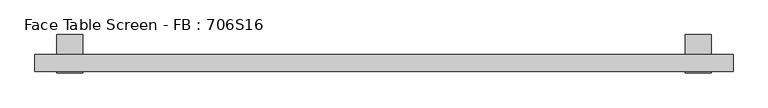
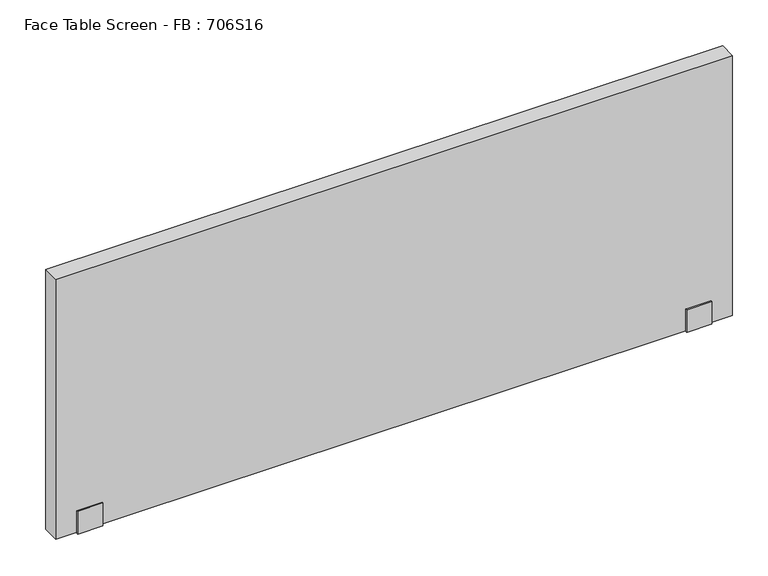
"""IFC4 building model written with IfcOpenShell, lengths in millimetres: furniture geometry, Face Table Screen - FB : 706S16."""

import ifcopenshell
import ifcopenshell.guid

model = None  # the IFC model being written
_history = None  # IfcOwnerHistory: only IFC2X3 demands one
_inside = {}  # id of a spatial element -> (the spatial element, [elements in it])
_under = {}  # id of a project, library or spatial element -> (it, [spatial elements below it])
_declared = {}  # id of a project -> (the project, [libraries it declares])
_typed = {}  # id of a type object -> (the type object, [elements of that type])
_made_of = {}  # id of a material, layer set ... -> (it, [elements and type objects made of it])


def new_model(schema):
    """Start an empty IFC model of exactly this schema.

    Asked for "IFC4X3", IfcOpenShell would pick the latest addendum, in which some entities
    have other attributes; the version numbers below select the first issue.
    IFC2X3 requires an IfcOwnerHistory on every rooted entity: one is made here for all.
    """
    global model, _history
    if schema == "IFC4X3":
        model = ifcopenshell.file(schema_version=(4, 3, 0, 0))
    else:
        model = ifcopenshell.file(schema=schema)
    _inside.clear()
    _under.clear()
    _declared.clear()
    _typed.clear()
    _made_of.clear()
    _history = None
    if model.schema == "IFC2X3":
        org = make("IfcOrganization", Name="unknown")
        user = make(
            "IfcPersonAndOrganization",
            ThePerson=make("IfcPerson", FamilyName="unknown"),
            TheOrganization=org,
        )
        app = make(
            "IfcApplication",
            ApplicationDeveloper=org,
            Version="unknown",
            ApplicationFullName="unknown",
            ApplicationIdentifier="unknown",
        )
        _history = make(
            "IfcOwnerHistory",
            OwningUser=user,
            OwningApplication=app,
            ChangeAction="ADDED",
            CreationDate=0,
        )
    return model


def make(cls, **values):
    """One entity of the class cls with the attributes given. An attribute that is None is left unset."""
    return model.create_entity(
        cls, **{name: value for name, value in values.items() if value is not None}
    )


def rooted(cls, **values):
    """An entity with a GlobalId (a new one), such as an element, a storey or a relation."""
    return make(cls, GlobalId=ifcopenshell.guid.new(), OwnerHistory=_history, **values)


def si_unit(unit_type, name, prefix=None):
    """IfcSIUnit, for example si_unit("LENGTHUNIT", "METRE", prefix="MILLI")."""
    return make("IfcSIUnit", UnitType=unit_type, Prefix=prefix, Name=name)


def assignment(units):
    """IfcUnitAssignment: the units of a project."""
    return None if units is None else make("IfcUnitAssignment", Units=units)


def point(xyz):
    """IfcCartesianPoint."""
    return None if xyz is None else make("IfcCartesianPoint", Coordinates=xyz)


def direction(xyz):
    """IfcDirection."""
    return None if xyz is None else make("IfcDirection", DirectionRatios=xyz)


def frame(location, z_axis=None, x_axis=None):
    """IfcAxis2Placement3D, a coordinate frame: its origin and axes. An axis left out is left unset."""
    return make(
        "IfcAxis2Placement3D",
        Location=point(location),
        Axis=direction(z_axis),
        RefDirection=direction(x_axis),
    )


def origin():
    """The frame at (0, 0, 0) with its axes left unset."""
    return frame((0.0, 0.0, 0.0))


def place(relative_to, where):
    """IfcLocalPlacement: puts the frame where relative to a parent placement (None: the world)."""
    return make(
        "IfcLocalPlacement", PlacementRelTo=relative_to, RelativePlacement=where
    )


def context(
    kind, dimensions, precision=None, world=None, true_north=None, identifier=None
):
    """IfcGeometricRepresentationContext, for example the 3D "Model" context."""
    return make(
        "IfcGeometricRepresentationContext",
        ContextIdentifier=identifier,
        ContextType=kind,
        CoordinateSpaceDimension=dimensions,
        Precision=precision,
        WorldCoordinateSystem=world,
        TrueNorth=true_north,
    )


def project(units=None, contexts=None):
    """IfcProject with its units and contexts."""
    return rooted(
        "IfcProject",
        Name="project",
        RepresentationContexts=contexts,
        UnitsInContext=assignment(units),
    )


def spatial(cls, under=None, at=None, **own):
    """A site, building, storey or space (cls), placed at a placement, below another one or the project."""
    s = rooted(cls, ObjectPlacement=at, **own)
    if under is not None:
        _under.setdefault(under.id(), (under, []))[1].append(s)
    return s


def polyline(points):
    """IfcPolyline through the points."""
    return make("IfcPolyline", Points=[point(p) for p in points])


def outline(outer, holes=None, kind="AREA"):
    """IfcArbitraryClosedProfileDef: a profile drawn as a closed curve; with holes, ...WithVoids."""
    if holes is None:
        return make("IfcArbitraryClosedProfileDef", ProfileType=kind, OuterCurve=outer)
    return make(
        "IfcArbitraryProfileDefWithVoids",
        ProfileType=kind,
        OuterCurve=outer,
        InnerCurves=holes,
    )


def extrude(swept, where, along, depth):
    """IfcExtrudedAreaSolid: the profile swept, set in the frame where, extruded along a direction by depth."""
    return make(
        "IfcExtrudedAreaSolid",
        SweptArea=swept,
        Position=where,
        ExtrudedDirection=direction(along),
        Depth=depth,
    )


def shape(context_of_items, identifier, shape_type, items):
    """IfcShapeRepresentation: the items that make up one representation, for example the "Body"."""
    return make(
        "IfcShapeRepresentation",
        ContextOfItems=context_of_items,
        RepresentationIdentifier=identifier,
        RepresentationType=shape_type,
        Items=items,
    )


def source(mapping_origin, context_of_items, identifier, shape_type, items):
    """IfcRepresentationMap: a shape defined once, which mapped items show again and again."""
    return make(
        "IfcRepresentationMap",
        MappingOrigin=mapping_origin,
        MappedRepresentation=shape(context_of_items, identifier, shape_type, items),
    )


def transform(
    local_origin,
    x_axis=None,
    y_axis=None,
    z_axis=None,
    scale=None,
    scale2=None,
    scale3=None,
    uniform=True,
):
    """IfcCartesianTransformationOperator3D, or its non-uniform kind. x_axis, y_axis, z_axis: its Axis1, 2, 3."""
    if uniform:
        return make(
            "IfcCartesianTransformationOperator3D",
            Axis1=direction(x_axis),
            Axis2=direction(y_axis),
            LocalOrigin=point(local_origin),
            Scale=scale,
            Axis3=direction(z_axis),
        )
    return make(
        "IfcCartesianTransformationOperator3DnonUniform",
        Axis1=direction(x_axis),
        Axis2=direction(y_axis),
        LocalOrigin=point(local_origin),
        Scale=scale,
        Axis3=direction(z_axis),
        Scale2=scale2,
        Scale3=scale3,
    )


def mapped(mapping_source, mapping_target):
    """IfcMappedItem: shows the shape of a source again, moved by a transform."""
    return make(
        "IfcMappedItem", MappingSource=mapping_source, MappingTarget=mapping_target
    )


def made_of(thing, what):
    """Note that an element or type object is made of a material, layer set ...; save() writes the relation."""
    if what is not None:
        _made_of.setdefault(what.id(), (what, []))[1].append(thing)
    return thing


def element(
    cls,
    number,
    at=None,
    inside=None,
    cuts=None,
    type_object=None,
    material=None,
    context=None,
    identifier="Body",
    shape_type=None,
    held_by="IfcProductDefinitionShape",
    body=None,
    shapes=None,
    **own,
):
    """One element of the class cls, such as IfcWall. Its Tag is "e" and its number.

    at: its placement. inside: the storey or other place that contains it. cuts: it is an
    opening in that element (IfcRelVoidsElement). A single representation is given by context,
    identifier, shape_type and body (its items); several are given by shapes. held_by: the class
    of the entity that holds the representations. save() writes the other relations.
    """
    e = rooted(cls, Tag="e%d" % number, ObjectPlacement=at, **own)
    if body is not None:
        shapes = [shape(context, identifier, shape_type, body)]
    if shapes is not None:
        e.Representation = make(held_by, Representations=shapes)
    if inside is not None:
        _inside.setdefault(inside.id(), (inside, []))[1].append(e)
    if cuts is not None:
        rooted(
            "IfcRelVoidsElement", RelatingBuildingElement=cuts, RelatedOpeningElement=e
        )
    if type_object is not None:
        _typed.setdefault(type_object.id(), (type_object, []))[1].append(e)
    return made_of(e, material)


def aggregate(whole, parts):
    """IfcRelAggregates: a whole, such as a stair, and the parts it consists of."""
    return rooted("IfcRelAggregates", RelatingObject=whole, RelatedObjects=parts)


def save(model, path):
    """Write the relations noted so far, then the file.

    IfcRelAggregates (storeys below a building ...), IfcRelContainedInSpatialStructure (elements
    in a storey), IfcRelDefinesByType, IfcRelAssociatesMaterial and IfcRelDeclares: one each for
    every whole, place, type object, material and project.
    """
    for whole, parts in _under.values():
        aggregate(whole, parts)
    for where, things in _inside.values():
        rooted(
            "IfcRelContainedInSpatialStructure",
            RelatedElements=things,
            RelatingStructure=where,
        )
    for kind, things in _typed.values():
        rooted("IfcRelDefinesByType", RelatedObjects=things, RelatingType=kind)
    for what, things in _made_of.values():
        rooted("IfcRelAssociatesMaterial", RelatedObjects=things, RelatingMaterial=what)
    for by, libraries in _declared.values():
        rooted("IfcRelDeclares", RelatingContext=by, RelatedDefinitions=libraries)
    model.write(path)


def face_table_screen_fb_706s16_7a2e27b4(model_context):
    return source(origin(), model_context, "Body", "SweptSolid", [
        extrude(outline(polyline([(-42.9999947, -156.0), (-42.9999997, -99.0433898), (-40.0, -99.0433898), (-40.0, -153.0), (0.0, -153.0), (0.0, -22.0), (45.0, -22.0), (45.0, -25.0433898), (3.0000062, -25.0433898), (2.9999947, -156.0), (-42.9999947, -156.0)])), frame((709.9863751, 0.0, 0.0), z_axis=(1.0, 0.0, 0.0), x_axis=(0.0, 1.0, 0.0)), (0.0, 0.0, 1.0), 60.0),
        extrude(outline(polyline([(-42.9999947, -156.0), (-42.9999997, -99.0433898), (-40.0, -99.0433898), (-40.0, -153.0), (0.0, -153.0), (0.0, -22.0), (45.0, -22.0), (45.0, -25.0433898), (3.0000062, -25.0433898), (2.9999947, -156.0), (-42.9999947, -156.0)])), frame((-730.0136249, 0.0, 0.0), z_axis=(1.0, 0.0, 0.0), x_axis=(0.0, 1.0, 0.0)), (0.0, 0.0, 1.0), 60.0),
        extrude(outline(polyline([(819.9863751, -40.0), (-780.0136249, -40.0), (-780.0136249, 0.0), (819.9863751, 0.0), (819.9863751, -40.0)])), frame((0.0, 0.0, -153.0), z_axis=(0.0, 0.0, 1.0), x_axis=(1.0, 0.0, 0.0)), (0.0, 0.0, 1.0), 650.0),
    ])


if __name__ == "__main__":
    model = new_model("IFC4")
    model_context = context("Model", 3, world=origin())
    ifc_project = project(units=[si_unit("LENGTHUNIT", "METRE", prefix="MILLI")], contexts=[model_context])
    site = spatial("IfcSite", under=ifc_project)
    building = spatial("IfcBuilding", under=site)
    placement = place(None, origin())
    face_table_screen_fb_706s16_shape = face_table_screen_fb_706s16_7a2e27b4(model_context)
    element("IfcFurniture", 1, ObjectType="Face Table Screen - FB : 706S16", at=placement, inside=building, context=model_context, shape_type="MappedRepresentation", body=[
        mapped(face_table_screen_fb_706s16_shape, transform((0.0, 0.0, 0.0), x_axis=(1.0, 0.0, 0.0), y_axis=(0.0, 1.0, 0.0), z_axis=(0.0, 0.0, 1.0))),
    ])
    save(model, "model.ifc")
